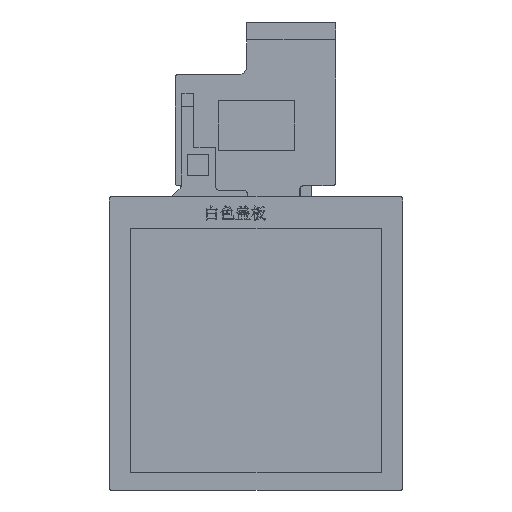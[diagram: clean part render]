
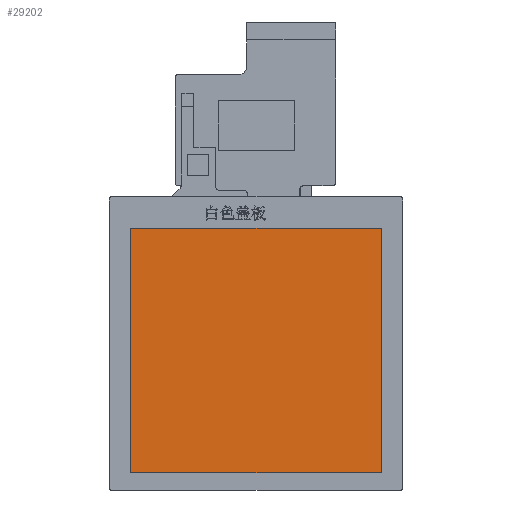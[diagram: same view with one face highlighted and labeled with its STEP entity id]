
A CAD part, front view. The second image highlights one B-rep face of the part: STEP entity #29202.
In plain terms, the highlighted planar face has unit normal (0, -1, 0).
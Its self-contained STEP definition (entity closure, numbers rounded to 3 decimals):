
#506 = DIRECTION ( 'NONE',  ( 0., 1., 0. ) ) ;
#690 = VECTOR ( 'NONE', #20020, 1000. ) ;
#930 = VECTOR ( 'NONE', #15890, 1000. ) ;
#1627 = CARTESIAN_POINT ( 'NONE',  ( 77.628, -1., -8.612 ) ) ;
#2139 = VECTOR ( 'NONE', #9258, 1000. ) ;
#3648 = EDGE_CURVE ( 'NONE', #20062, #27824, #26165, .T. ) ;
#3792 = VERTEX_POINT ( 'NONE', #1627 ) ;
#4039 = VECTOR ( 'NONE', #29533, 1000. ) ;
#4050 = CARTESIAN_POINT ( 'NONE',  ( 5.772, -1., -8.612 ) ) ;
#5149 = PLANE ( 'NONE',  #29215 ) ;
#6412 = EDGE_LOOP ( 'NONE', ( #24085, #7897, #26466, #19885 ) ) ;
#6945 = LINE ( 'NONE', #17914, #690 ) ;
#7181 = LINE ( 'NONE', #4050, #930 ) ;
#7302 = EDGE_CURVE ( 'NONE', #16970, #3792, #6945, .T. ) ;
#7897 = ORIENTED_EDGE ( 'NONE', *, *, #18196, .T. ) ;
#8857 = CARTESIAN_POINT ( 'NONE',  ( 5.772, -1., -78.788 ) ) ;
#9258 = DIRECTION ( 'NONE',  ( 0., 0., -1. ) ) ;
#9552 = LINE ( 'NONE', #10976, #4039 ) ;
#10976 = CARTESIAN_POINT ( 'NONE',  ( 77.628, -1., -78.788 ) ) ;
#12710 = FACE_OUTER_BOUND ( 'NONE', #6412, .T. ) ;
#14535 = CARTESIAN_POINT ( 'NONE',  ( 0., -1., 0. ) ) ;
#15749 = CARTESIAN_POINT ( 'NONE',  ( 5.772, -1., -78.788 ) ) ;
#15890 = DIRECTION ( 'NONE',  ( -1., 0., 0. ) ) ;
#16864 = DIRECTION ( 'NONE',  ( 0., 0., 1. ) ) ;
#16970 = VERTEX_POINT ( 'NONE', #17507 ) ;
#17507 = CARTESIAN_POINT ( 'NONE',  ( 77.628, -1., -78.788 ) ) ;
#17914 = CARTESIAN_POINT ( 'NONE',  ( 77.628, -1., -8.612 ) ) ;
#18196 = EDGE_CURVE ( 'NONE', #3792, #20062, #7181, .T. ) ;
#19885 = ORIENTED_EDGE ( 'NONE', *, *, #26013, .T. ) ;
#20020 = DIRECTION ( 'NONE',  ( 0., 0., 1. ) ) ;
#20062 = VERTEX_POINT ( 'NONE', #23564 ) ;
#23564 = CARTESIAN_POINT ( 'NONE',  ( 5.772, -1., -8.612 ) ) ;
#24085 = ORIENTED_EDGE ( 'NONE', *, *, #7302, .T. ) ;
#26013 = EDGE_CURVE ( 'NONE', #27824, #16970, #9552, .T. ) ;
#26165 = LINE ( 'NONE', #8857, #2139 ) ;
#26466 = ORIENTED_EDGE ( 'NONE', *, *, #3648, .T. ) ;
#27824 = VERTEX_POINT ( 'NONE', #15749 ) ;
#29202 = ADVANCED_FACE ( 'NONE', ( #12710 ), #5149, .F. ) ;
#29215 = AXIS2_PLACEMENT_3D ( 'NONE', #14535, #506, #16864 ) ;
#29533 = DIRECTION ( 'NONE',  ( 1., 0., 0. ) ) ;
